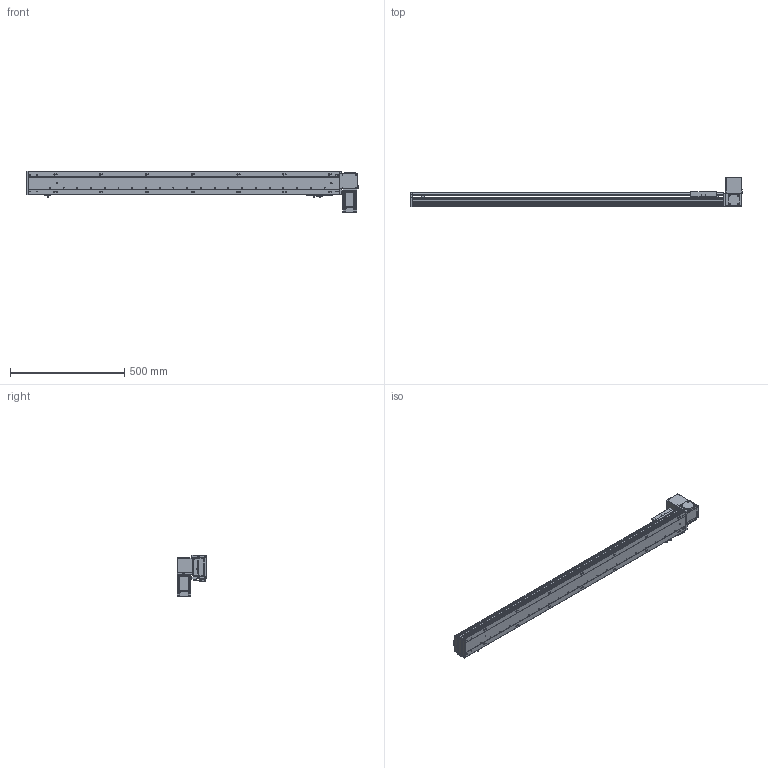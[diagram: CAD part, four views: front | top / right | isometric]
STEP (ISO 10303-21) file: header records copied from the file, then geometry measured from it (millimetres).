
FILE_DESCRIPTION (( 'STEP AP203' ), '1' );
FILE_NAME ('RY100-T-300-UL.SLDASM_1150.step', '2024-04-25T08:40:13', ( '盈信电脑' ), ( '东莞市道滘镇水果街19号' ), 'SwSTEP 2.0', 'SolidWorks 2016', '' );
FILE_SCHEMA (( 'CONFIG_CONTROL_DESIGN' ));
Length unit declared in the file: millimetre
Products named in the file (15): 1; RY100-T-300-RK倰第菁釱_1150; RY100-T左右折电机安装板; RY80-T肮祭謫奻殏俋欶; RY100-T-300-RK倰第奻裔_1150; RY100綴裔啣; RY100-T翋肮祭謫裔啣; 滅袉蝶18-10; RY100-T肮祭謫臏賑輸; RY100-T粣創揤踡裔; RY100-T翋肮祭謫裔啣2; 覜茼ん672; RY100俋离覜茼え; RY100-T-300-UL.SLDASM_1150; RY100-T肮祭謫翋盓傅釱
Assembly tree (17 placements, depth 2):
  RY100-T-300-UL.SLDASM_1150
    RY100-T-300-RK倰第菁釱_1150
    RY100-T-300-RK倰第奻裔_1150
    RY100-T肮祭謫臏賑輸
    RY100綴裔啣
    覜茼ん672  x3
    RY100俋离覜茼え
    RY100-T肮祭謫翋盓傅釱
    滅袉蝶18-10  x2
    RY100-T翋肮祭謫裔啣2
    RY100-T翋肮祭謫裔啣
    1
    RY100-T左右折电机安装板
    RY80-T肮祭謫奻殏俋欶
    RY100-T粣創揤踡裔
Bounding box: 1450 x 130.5 x 182.5 mm (x, y, z)
Volume: 2867713.4 mm3; surface area: 1187138.4 mm2
Topology: 17 solids, 17 shells, 2205 faces, 6127 edges, 3979 vertices
Faces by surface type: plane 1203, cylinder 793, cone 131, bspline 78
Entity records: 70927 total; most frequent: CARTESIAN_POINT 17035, ORIENTED_EDGE 11086, DIRECTION 10569, EDGE_CURVE 5543, VERTEX_POINT 3647, VECTOR 3593, LINE 3593, AXIS2_PLACEMENT_3D 3488
